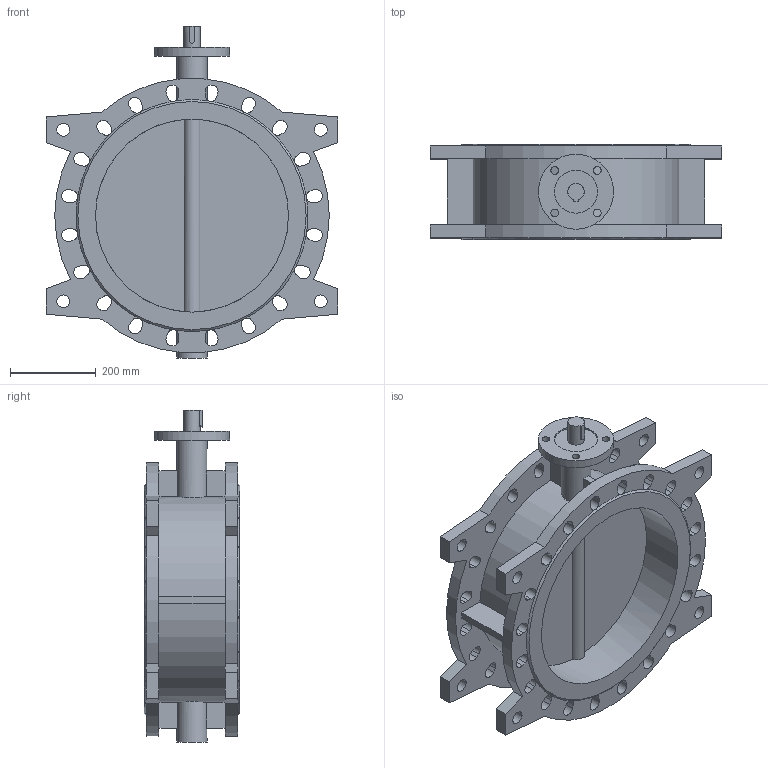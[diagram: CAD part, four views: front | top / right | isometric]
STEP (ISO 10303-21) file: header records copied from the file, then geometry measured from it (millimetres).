
FILE_DESCRIPTION(('STEP AP203'), '1');
FILE_NAME('Çàòâîð 021F.Y DN450 PN10_16 ïîä ÝÏ', '', ('UNSPECIFIED'), ('UNSPECIFIED'), 'ASCON STEP Converter 1.6', 'ASCON Math Kernel', '');
FILE_SCHEMA(('CONFIG_CONTROL_DESIGN'));
Length unit declared in the file: millimetre
Bounding box: 680 x 222 x 774 mm (x, y, z)
Volume: 18560538.2 mm3; surface area: 1952461 mm2
Topology: 1 solids, 1 shells, 256 faces, 855 edges, 570 vertices
Faces by surface type: plane 140, cylinder 114, cone 2
Full cylindrical faces by diameter (mm): 18 x4, 30 x8, 38 x1, 70 x2, 100 x1, 175 x1, 450 x2
Entity records: 14167 total; most frequent: CARTESIAN_POINT 4306, ORIENTED_EDGE 1668, DIRECTION 1611, EDGE_CURVE 834, AXIS2_PLACEMENT_3D 571, VERTEX_POINT 570, LINE 469, VECTOR 469
